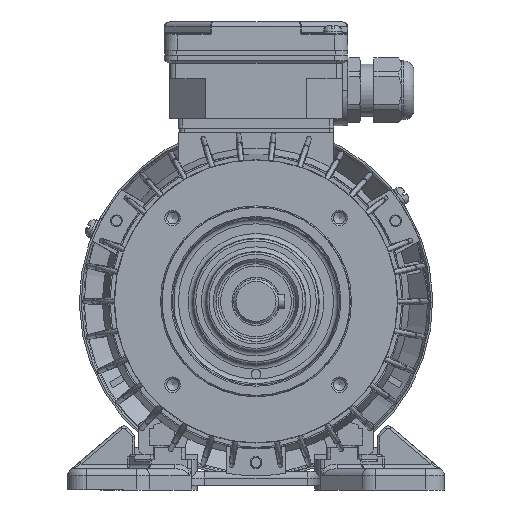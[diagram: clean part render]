
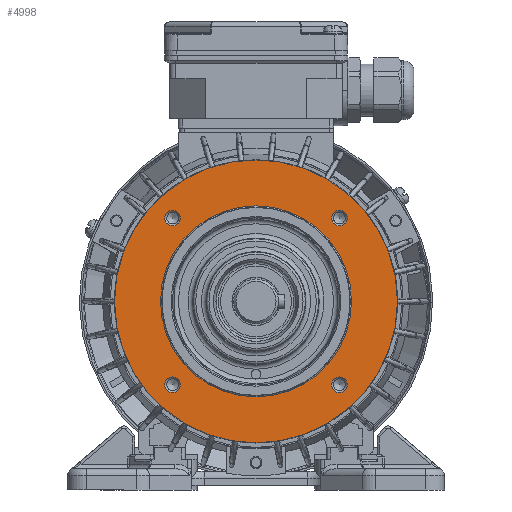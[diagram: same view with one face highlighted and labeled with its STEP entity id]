
A CAD part, left-side view. The second image highlights one B-rep face of the part: STEP entity #4998.
In plain terms, the highlighted planar face has unit normal (-1, 0, 0) as drawn and (0, -1, 0) by its records, which use the part's own axes.
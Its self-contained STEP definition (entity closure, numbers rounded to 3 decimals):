
#4998 = ADVANCED_FACE( '', ( #11205, #11206, #11207, #11208, #11209, #11210 ), #11211, .T. );
#11205 = FACE_BOUND( '', #26942, .T. );
#11206 = FACE_BOUND( '', #26943, .T. );
#11207 = FACE_BOUND( '', #26944, .T. );
#11208 = FACE_BOUND( '', #26945, .T. );
#11209 = FACE_BOUND( '', #26946, .T. );
#11210 = FACE_OUTER_BOUND( '', #26947, .T. );
#11211 = PLANE( '', #26948 );
#26942 = EDGE_LOOP( '', ( #51393 ) );
#26943 = EDGE_LOOP( '', ( #51394 ) );
#26944 = EDGE_LOOP( '', ( #51395 ) );
#26945 = EDGE_LOOP( '', ( #51396 ) );
#26946 = EDGE_LOOP( '', ( #51397 ) );
#26947 = EDGE_LOOP( '', ( #51398 ) );
#26948 = AXIS2_PLACEMENT_3D( '', #51399, #51400, #51401 );
#51393 = ORIENTED_EDGE( '', *, *, #70085, .T. );
#51394 = ORIENTED_EDGE( '', *, *, #70978, .T. );
#51395 = ORIENTED_EDGE( '', *, *, #67339, .T. );
#51396 = ORIENTED_EDGE( '', *, *, #70979, .T. );
#51397 = ORIENTED_EDGE( '', *, *, #70980, .T. );
#51398 = ORIENTED_EDGE( '', *, *, #70981, .T. );
#51399 = CARTESIAN_POINT( '', ( 0., 3., 40. ) );
#51400 = DIRECTION( '', ( 0., -1., 0. ) );
#51401 = DIRECTION( '', ( 0., 0., -1. ) );
#67339 = EDGE_CURVE( '', #78686, #78686, #78687, .F. );
#70085 = EDGE_CURVE( '', #83261, #83261, #83262, .F. );
#70978 = EDGE_CURVE( '', #84603, #84603, #84604, .F. );
#70979 = EDGE_CURVE( '', #84605, #84605, #84606, .F. );
#70980 = EDGE_CURVE( '', #84607, #84607, #84608, .F. );
#70981 = EDGE_CURVE( '', #84609, #84609, #84610, .T. );
#78686 = VERTEX_POINT( '', #95061 );
#78687 = CIRCLE( '', #95062, 3.3 );
#83261 = VERTEX_POINT( '', #106476 );
#83262 = CIRCLE( '', #106477, 3.3 );
#84603 = VERTEX_POINT( '', #109787 );
#84604 = CIRCLE( '', #109788, 3.3 );
#84605 = VERTEX_POINT( '', #109789 );
#84606 = CIRCLE( '', #109790, 3.3 );
#84607 = VERTEX_POINT( '', #109791 );
#84608 = CIRCLE( '', #109792, 40.5 );
#84609 = VERTEX_POINT( '', #109793 );
#84610 = CIRCLE( '', #109794, 60. );
#95061 = CARTESIAN_POINT( '', ( 35.355, 3., 32.055 ) );
#95062 = AXIS2_PLACEMENT_3D( '', #124787, #124788, #124789 );
#106476 = CARTESIAN_POINT( '', ( -35.355, 3., -38.655 ) );
#106477 = AXIS2_PLACEMENT_3D( '', #127999, #128000, #128001 );
#109787 = CARTESIAN_POINT( '', ( 35.355, 3., -38.655 ) );
#109788 = AXIS2_PLACEMENT_3D( '', #129040, #129041, #129042 );
#109789 = CARTESIAN_POINT( '', ( -35.355, 3., 32.055 ) );
#109790 = AXIS2_PLACEMENT_3D( '', #129043, #129044, #129045 );
#109791 = CARTESIAN_POINT( '', ( 0., 3., -40.5 ) );
#109792 = AXIS2_PLACEMENT_3D( '', #129046, #129047, #129048 );
#109793 = CARTESIAN_POINT( '', ( 0., 3., -60. ) );
#109794 = AXIS2_PLACEMENT_3D( '', #129049, #129050, #129051 );
#124787 = CARTESIAN_POINT( '', ( 35.355, 3., 35.355 ) );
#124788 = DIRECTION( '', ( 0., -1., 0. ) );
#124789 = DIRECTION( '', ( 0., 0., -1. ) );
#127999 = CARTESIAN_POINT( '', ( -35.355, 3., -35.355 ) );
#128000 = DIRECTION( '', ( 0., -1., 0. ) );
#128001 = DIRECTION( '', ( 0., 0., -1. ) );
#129040 = CARTESIAN_POINT( '', ( 35.355, 3., -35.355 ) );
#129041 = DIRECTION( '', ( 0., -1., 0. ) );
#129042 = DIRECTION( '', ( 0., 0., -1. ) );
#129043 = CARTESIAN_POINT( '', ( -35.355, 3., 35.355 ) );
#129044 = DIRECTION( '', ( 0., -1., 0. ) );
#129045 = DIRECTION( '', ( 0., 0., -1. ) );
#129046 = CARTESIAN_POINT( '', ( 0., 3., 0. ) );
#129047 = DIRECTION( '', ( 0., -1., 0. ) );
#129048 = DIRECTION( '', ( 0., 0., -1. ) );
#129049 = CARTESIAN_POINT( '', ( 0., 3., 0. ) );
#129050 = DIRECTION( '', ( 0., -1., 0. ) );
#129051 = DIRECTION( '', ( 0., 0., -1. ) );
